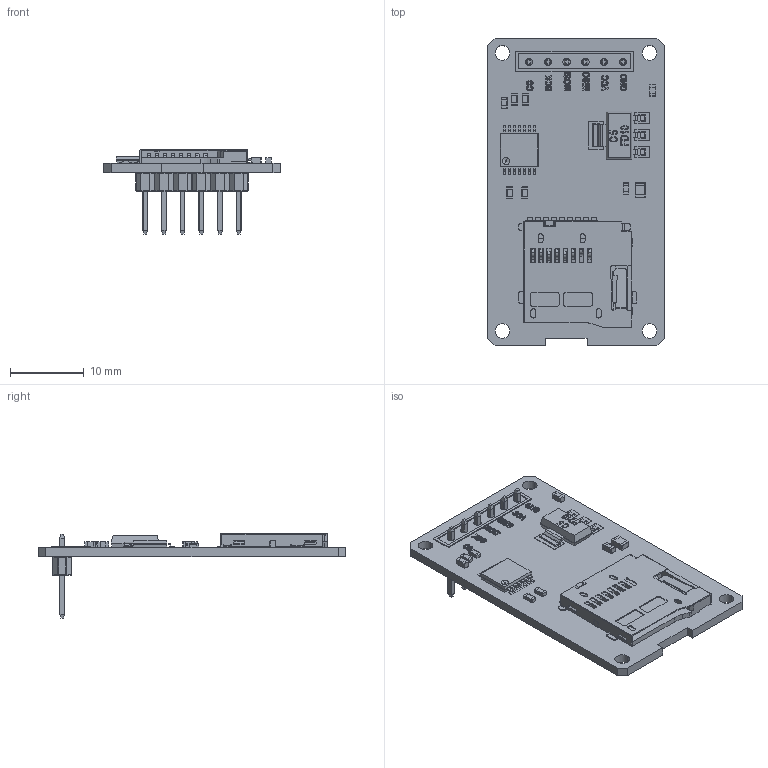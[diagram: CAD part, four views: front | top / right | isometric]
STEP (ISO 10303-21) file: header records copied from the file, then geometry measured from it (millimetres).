
FILE_DESCRIPTION (( 'STEP AP214' ), '1' );
FILE_NAME ('Product_TF Micro SD Card Memory Modul Arduino.STEP', '2021-05-16T05:51:07', ( 'mohamedamie' ), ( 'doctor' ), 'SwSTEP 2.0', 'SolidWorks 2012', '' );
FILE_SCHEMA (( 'AUTOMOTIVE_DESIGN' ));
Length unit declared in the file: millimetre
Products named in the file (11): Pièce2; Pin Header Male 01x06 P2.54mm v1; Male Pin Header_2; LVC125A; cap_603_2; cap_603; res_603; nano - reg; slot; PCB; Product_TF Micro SD Card Memory Modul Arduino
Assembly tree (20 placements, depth 3):
  Product_TF Micro SD Card Memory Modul Arduino
    PCB
    slot
    nano - reg
    res_603  x4
    cap_603  x3
    cap_603_2
    LVC125A
    Pin Header Male 01x06 P2.54mm v1
      Male Pin Header_2  x6
    Pièce2
Bounding box: 24 x 41.8 x 11.46 mm (x, y, z)
Volume: 1614.1 mm3; surface area: 3678.7 mm2
Topology: 54 solids, 54 shells, 2273 faces, 6179 edges, 3778 vertices
Faces by surface type: plane 1188, cylinder 659, bspline 422, cone 4
Entity records: 59748 total; most frequent: CARTESIAN_POINT 19862, ORIENTED_EDGE 8142, DIRECTION 6895, EDGE_CURVE 4071, VECTOR 2915, LINE 2915, VERTEX_POINT 2658, AXIS2_PLACEMENT_3D 1990
